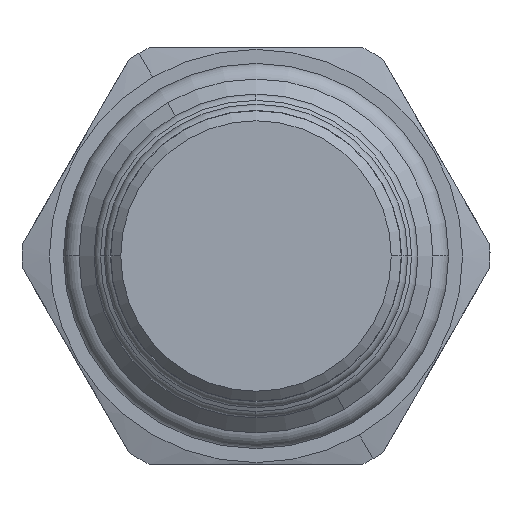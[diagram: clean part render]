
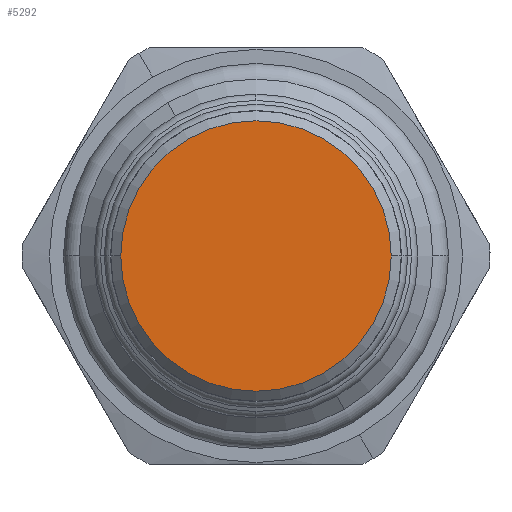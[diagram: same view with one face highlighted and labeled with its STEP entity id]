
A CAD part, front view. The second image highlights one B-rep face of the part: STEP entity #5292.
In plain terms, the highlighted planar face has unit normal (0, -1, 0).
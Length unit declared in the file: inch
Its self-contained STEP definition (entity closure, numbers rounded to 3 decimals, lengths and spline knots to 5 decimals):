
#2085=CARTESIAN_POINT('',(0.,-2.7795,0.));
#2086=DIRECTION('',(0.,1.,0.));
#2087=DIRECTION('',(1.,0.,0.));
#2088=AXIS2_PLACEMENT_3D('',#2085,#2086,#2087);
#2090=CARTESIAN_POINT('',(0.,-2.7795,0.));
#2091=DIRECTION('',(0.,1.,0.));
#2092=DIRECTION('',(-1.,0.,0.));
#2093=AXIS2_PLACEMENT_3D('',#2090,#2091,#2092);
#2614=CARTESIAN_POINT('',(0.406,-2.7795,0.));
#2615=CARTESIAN_POINT('',(-0.406,-2.7795,0.));
#2616=VERTEX_POINT('',#2614);
#2617=VERTEX_POINT('',#2615);
#5282=CARTESIAN_POINT('',(0.,-2.7795,0.));
#5283=DIRECTION('',(0.,-1.,0.));
#5284=DIRECTION('',(-1.,0.,0.));
#5285=AXIS2_PLACEMENT_3D('',#5282,#5283,#5284);
#5286=PLANE('',#5285);
#5287=ORIENTED_EDGE('',*,*,#5272,.T.);
#5289=ORIENTED_EDGE('',*,*,#5288,.T.);
#5290=EDGE_LOOP('',(#5287,#5289));
#5291=FACE_OUTER_BOUND('',#5290,.F.);
#5292=ADVANCED_FACE('',(#5291),#5286,.T.);
#2089=CIRCLE('',#2088,0.406);
#2094=CIRCLE('',#2093,0.406);
#5272=EDGE_CURVE('',#2616,#2617,#2089,.T.);
#5288=EDGE_CURVE('',#2617,#2616,#2094,.T.);
